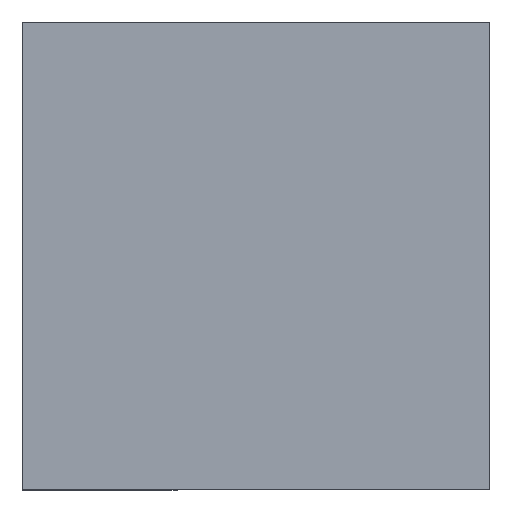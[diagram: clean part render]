
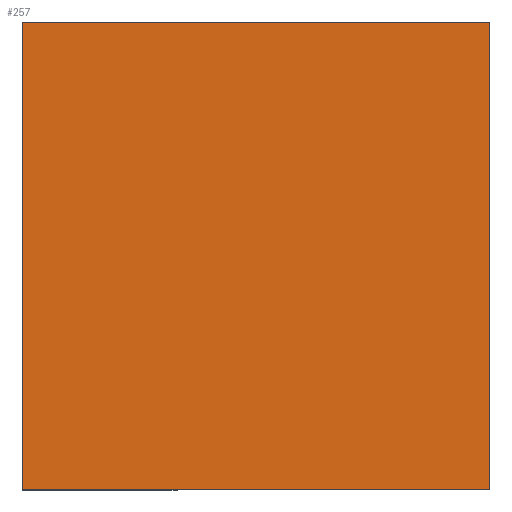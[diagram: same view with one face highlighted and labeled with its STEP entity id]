
A CAD part, top view. The second image highlights one B-rep face of the part: STEP entity #257.
In plain terms, the highlighted planar face has unit normal (0, 0, 1).
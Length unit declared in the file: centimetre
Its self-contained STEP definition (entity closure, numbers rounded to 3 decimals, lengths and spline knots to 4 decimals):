
#15 = VECTOR ( 'NONE', #141, 100. ) ;
#16 = VERTEX_POINT ( 'NONE', #386 ) ;
#20 = DIRECTION ( 'NONE',  ( 0., 0., 1. ) ) ;
#28 = LINE ( 'NONE', #281, #41 ) ;
#41 = VECTOR ( 'NONE', #149, 100. ) ;
#47 = EDGE_LOOP ( 'NONE', ( #117, #169, #173, #285 ) ) ;
#53 = CARTESIAN_POINT ( 'NONE',  ( 0., 0., 1000. ) ) ;
#54 = EDGE_CURVE ( 'NONE', #232, #16, #65, .T. ) ;
#60 = VERTEX_POINT ( 'NONE', #382 ) ;
#65 = LINE ( 'NONE', #293, #313 ) ;
#108 = CARTESIAN_POINT ( 'NONE',  ( 1000., 0., 1000. ) ) ;
#115 = DIRECTION ( 'NONE',  ( 1., 0., 0. ) ) ;
#117 = ORIENTED_EDGE ( 'NONE', *, *, #365, .T. ) ;
#123 = DIRECTION ( 'NONE',  ( 0., 1., 0. ) ) ;
#135 = VECTOR ( 'NONE', #374, 100. ) ;
#140 = CARTESIAN_POINT ( 'NONE',  ( 0., 1000., 1000. ) ) ;
#141 = DIRECTION ( 'NONE',  ( -1., 0., 0. ) ) ;
#145 = CARTESIAN_POINT ( 'NONE',  ( 0., 1000., 1000. ) ) ;
#149 = DIRECTION ( 'NONE',  ( 0., -1., 0. ) ) ;
#169 = ORIENTED_EDGE ( 'NONE', *, *, #398, .T. ) ;
#173 = ORIENTED_EDGE ( 'NONE', *, *, #54, .T. ) ;
#183 = LINE ( 'NONE', #250, #135 ) ;
#195 = EDGE_CURVE ( 'NONE', #16, #211, #343, .T. ) ;
#206 = AXIS2_PLACEMENT_3D ( 'NONE', #53, #20, #115 ) ;
#211 = VERTEX_POINT ( 'NONE', #145 ) ;
#232 = VERTEX_POINT ( 'NONE', #108 ) ;
#250 = CARTESIAN_POINT ( 'NONE',  ( 0., 0., 1000. ) ) ;
#257 = ADVANCED_FACE ( 'NONE', ( #276 ), #272, .T. ) ;
#272 = PLANE ( 'NONE',  #206 ) ;
#276 = FACE_OUTER_BOUND ( 'NONE', #47, .T. ) ;
#281 = CARTESIAN_POINT ( 'NONE',  ( 0., 1000., 1000. ) ) ;
#285 = ORIENTED_EDGE ( 'NONE', *, *, #195, .T. ) ;
#293 = CARTESIAN_POINT ( 'NONE',  ( 1000., 1000., 1000. ) ) ;
#313 = VECTOR ( 'NONE', #123, 100. ) ;
#343 = LINE ( 'NONE', #140, #15 ) ;
#365 = EDGE_CURVE ( 'NONE', #211, #60, #28, .T. ) ;
#374 = DIRECTION ( 'NONE',  ( 1., 0., 0. ) ) ;
#382 = CARTESIAN_POINT ( 'NONE',  ( 0., 0., 1000. ) ) ;
#386 = CARTESIAN_POINT ( 'NONE',  ( 1000., 1000., 1000. ) ) ;
#398 = EDGE_CURVE ( 'NONE', #60, #232, #183, .T. ) ;
